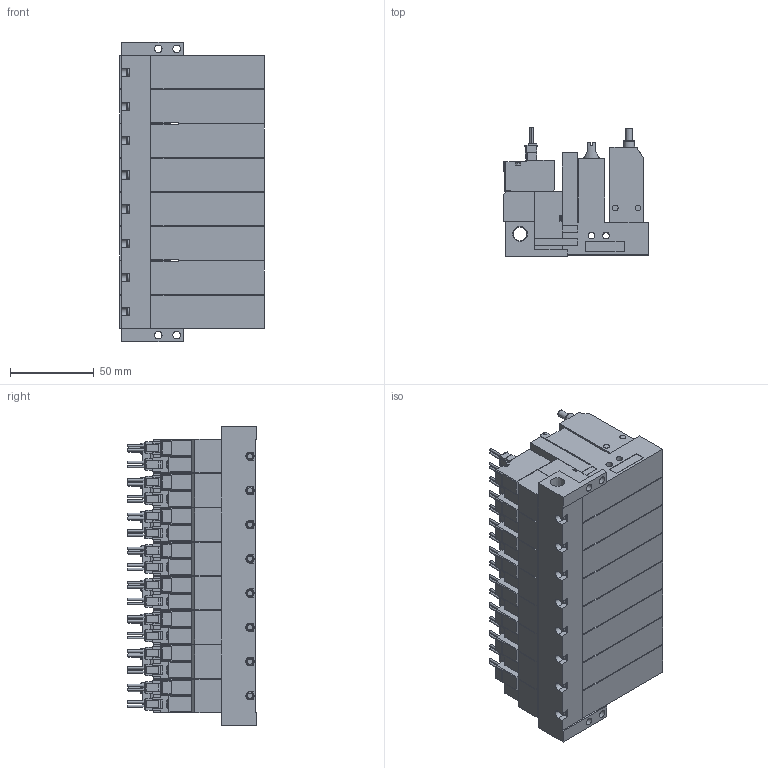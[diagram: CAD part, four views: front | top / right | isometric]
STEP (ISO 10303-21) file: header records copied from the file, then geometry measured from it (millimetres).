
FILE_DESCRIPTION(('STEP AP203'),'1');
FILE_NAME('ABS_ABPL5ALR808.stp','2025-02-25T05:05:19',(' '),(' '),'Spatial InterOp 3D',' ',' ');
FILE_SCHEMA(('CONFIG_CONTROL_DESIGN'));
Length unit declared in the file: millimetre
Products named in the file (5): BMC22M※※※※ABS_ABPL5ALR808; Solenoid valve A; Pressure sensor ABSL; Unit L; Base MR80R
Assembly tree (25 placements, depth 2):
  BMC22M※※※※ABS_ABPL5ALR808
    Solenoid valve A  x8
    Pressure sensor ABSL  x8
    Unit L  x8
    Base MR80R
Bounding box: 86.6 x 77.45 x 179.5 mm (x, y, z)
Volume: 718307.6 mm3; surface area: 198062.9 mm2
Topology: 25 solids, 25 shells, 3021 faces, 8091 edges, 5328 vertices
Faces by surface type: plane 2558, cylinder 373, cone 58, torus 32
Full cylindrical faces by diameter (mm): 1.4 x32, 2.5 x8, 3 x32, 3.5 x48, 3.6 x8, 4 x24, 4.134 x8, 4.5 x4, 5.2 x8, 6 x8, 6.5 x8, 6.6 x8, 8.279 x1
Entity records: 15688 total; most frequent: CARTESIAN_POINT 3036, DIRECTION 2514, ORIENTED_EDGE 2398, EDGE_CURVE 1199, LINE 942, VECTOR 942, VERTEX_POINT 848, AXIS2_PLACEMENT_3D 786
